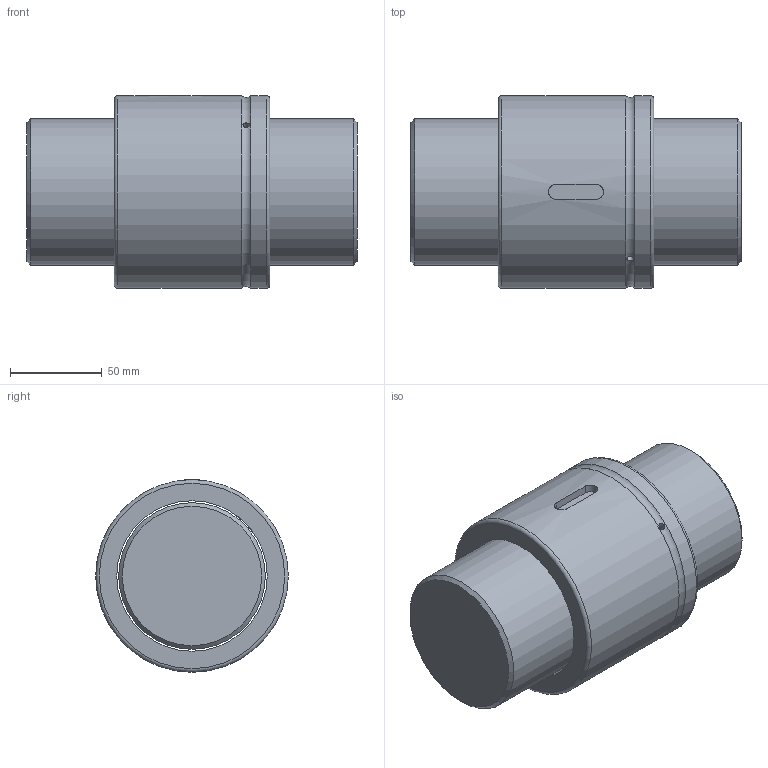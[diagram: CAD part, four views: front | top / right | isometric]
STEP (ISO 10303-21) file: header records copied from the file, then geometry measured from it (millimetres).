
FILE_DESCRIPTION (( 'STEP AP203' ), '1' );
FILE_NAME ('SCNI8010.STEP', '2023-08-16T08:28:49', ( '' ), ( '' ), 'SwSTEP 2.0', 'SolidWorks 2022', '' );
FILE_SCHEMA (( 'CONFIG_CONTROL_DESIGN' ));
Length unit declared in the file: millimetre
Products named in the file (1): SCNI8010
Bounding box: 180 x 105 x 105 mm (x, y, z)
Volume: 1188103.9 mm3; surface area: 111331.3 mm2
Topology: 2 solids, 2 shells, 19 faces, 37 edges, 23 vertices
Faces by surface type: plane 7, cylinder 7, torus 3, cone 2
Full cylindrical faces by diameter (mm): 3.5 x1, 80 x1, 82 x1, 105 x2
Entity records: 941 total; most frequent: CARTESIAN_POINT 508, DIRECTION 76, ORIENTED_EDGE 52, AXIS2_PLACEMENT_3D 34, EDGE_LOOP 34, FACE_OUTER_BOUND 27, EDGE_CURVE 26, VERTEX_POINT 22
